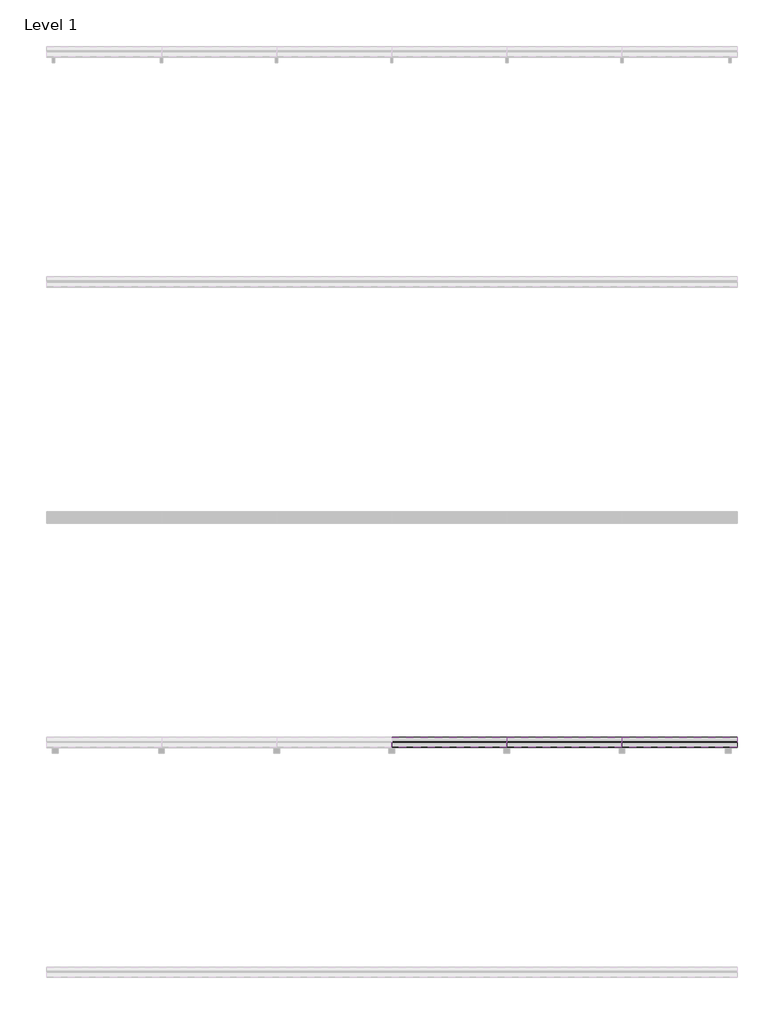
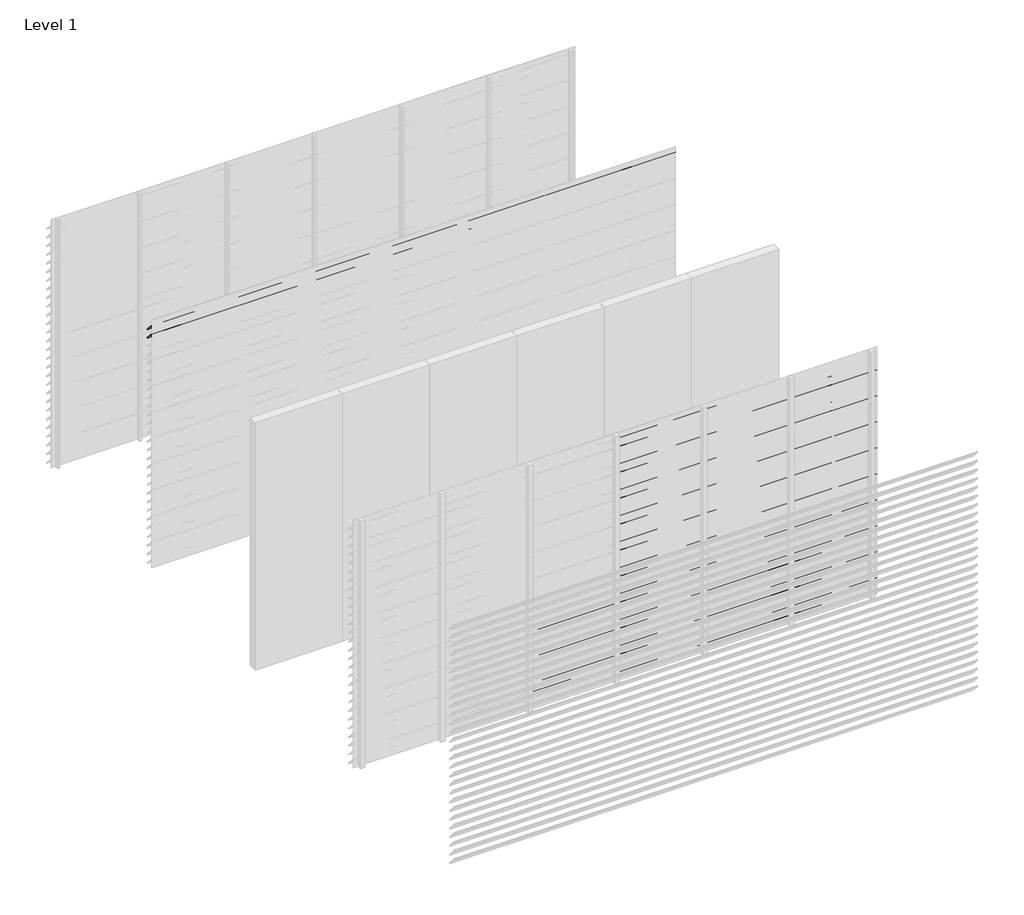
# One storey, part 5 of 9: 95 proxies.
"""IFC4 building model written with IfcOpenShell, lengths in millimetres."""

from ifc_helpers import new_model, si_unit, frame, origin, place, context, project, spatial, polyline, outline, extrude, element, save

model = new_model("IFC4")

# Units and contexts
model_context = context("Model", 3, world=origin())
ifc_project = project(units=[si_unit("LENGTHUNIT", "METRE", prefix="MILLI")], contexts=[model_context])

# Site, building, storey
site = spatial("IfcSite", under=ifc_project)
building = spatial("IfcBuilding", under=site)
storey = spatial("IfcBuildingStorey", under=building, Name="Level 1", Elevation=0.0)

# Proxies
placement = place(None, origin())
element("IfcBuildingElementProxy", 1, Name="Wall Sweeps", at=placement, inside=storey, context=model_context, shape_type="SweptSolid", body=[
    extrude(outline(polyline([(-7995.0, 2940.0), (-7995.0, 2935.6232888), (-7908.0, 2839.0), (-7908.0, 2829.0), (-7997.0, 2927.8445138), (-7997.0, 2940.0), (-7995.0, 2940.0)])), frame((0.0, 0.0, 0.0), z_axis=(1.0, 0.0, 0.0), x_axis=(0.0, 1.0, 0.0)), (0.0, 0.0, 1.0), 6000.0),
])
element("IfcBuildingElementProxy", 2, Name="Wall Sweeps", at=placement, inside=storey, context=model_context, shape_type="SweptSolid", body=[
    extrude(outline(polyline([(-7995.0, 2835.0), (-7995.0, 2830.6232888), (-7908.0, 2734.0), (-7908.0, 2724.0), (-7997.0, 2822.8445138), (-7997.0, 2835.0), (-7995.0, 2835.0)])), frame((0.0, 0.0, 0.0), z_axis=(1.0, 0.0, 0.0), x_axis=(0.0, 1.0, 0.0)), (0.0, 0.0, 1.0), 6000.0),
])
element("IfcBuildingElementProxy", 3, Name="Wall Sweeps", at=placement, inside=storey, context=model_context, shape_type="SweptSolid", body=[
    extrude(outline(polyline([(-11995.0, 945.0), (-11995.0, 940.6232888), (-11908.0, 844.0), (-11908.0, 834.0), (-11997.0, 932.8445138), (-11997.0, 945.0), (-11995.0, 945.0)])), frame((2000.0, 0.0, 0.0), z_axis=(1.0, 0.0, 0.0), x_axis=(0.0, 1.0, 0.0)), (0.0, 0.0, 1.0), 1000.0),
])
element("IfcBuildingElementProxy", 4, Name="Wall Sweeps", at=placement, inside=storey, context=model_context, shape_type="SweptSolid", body=[
    extrude(outline(polyline([(-11995.0, 840.0), (-11995.0, 835.6232888), (-11908.0, 739.0), (-11908.0, 729.0), (-11997.0, 827.8445138), (-11997.0, 840.0), (-11995.0, 840.0)])), frame((2000.0, 0.0, 0.0), z_axis=(1.0, 0.0, 0.0), x_axis=(0.0, 1.0, 0.0)), (0.0, 0.0, 1.0), 1000.0),
])
element("IfcBuildingElementProxy", 5, Name="Wall Sweeps", at=placement, inside=storey, context=model_context, shape_type="SweptSolid", body=[
    extrude(outline(polyline([(-11995.0, 735.0), (-11995.0, 730.6232888), (-11908.0, 634.0), (-11908.0, 624.0), (-11997.0, 722.8445138), (-11997.0, 735.0), (-11995.0, 735.0)])), frame((2000.0, 0.0, 0.0), z_axis=(1.0, 0.0, 0.0), x_axis=(0.0, 1.0, 0.0)), (0.0, 0.0, 1.0), 1000.0),
])
element("IfcBuildingElementProxy", 6, Name="Wall Sweeps", at=placement, inside=storey, context=model_context, shape_type="SweptSolid", body=[
    extrude(outline(polyline([(-11995.0, 630.0), (-11995.0, 625.6232888), (-11908.0, 529.0), (-11908.0, 519.0), (-11997.0, 617.8445138), (-11997.0, 630.0), (-11995.0, 630.0)])), frame((2000.0, 0.0, 0.0), z_axis=(1.0, 0.0, 0.0), x_axis=(0.0, 1.0, 0.0)), (0.0, 0.0, 1.0), 1000.0),
])
element("IfcBuildingElementProxy", 7, Name="Wall Sweeps", at=placement, inside=storey, context=model_context, shape_type="SweptSolid", body=[
    extrude(outline(polyline([(-11995.0, 525.0), (-11995.0, 520.6232888), (-11908.0, 424.0), (-11908.0, 414.0), (-11997.0, 512.8445138), (-11997.0, 525.0), (-11995.0, 525.0)])), frame((2000.0, 0.0, 0.0), z_axis=(1.0, 0.0, 0.0), x_axis=(0.0, 1.0, 0.0)), (0.0, 0.0, 1.0), 1000.0),
])
element("IfcBuildingElementProxy", 8, Name="Wall Sweeps", at=placement, inside=storey, context=model_context, shape_type="SweptSolid", body=[
    extrude(outline(polyline([(-11995.0, 420.0), (-11995.0, 415.6232888), (-11908.0, 319.0), (-11908.0, 309.0), (-11997.0, 407.8445138), (-11997.0, 420.0), (-11995.0, 420.0)])), frame((2000.0, 0.0, 0.0), z_axis=(1.0, 0.0, 0.0), x_axis=(0.0, 1.0, 0.0)), (0.0, 0.0, 1.0), 1000.0),
])
element("IfcBuildingElementProxy", 9, Name="Wall Sweeps", at=placement, inside=storey, context=model_context, shape_type="SweptSolid", body=[
    extrude(outline(polyline([(-11995.0, 315.0), (-11995.0, 310.6232888), (-11908.0, 214.0), (-11908.0, 204.0), (-11997.0, 302.8445138), (-11997.0, 315.0), (-11995.0, 315.0)])), frame((2000.0, 0.0, 0.0), z_axis=(1.0, 0.0, 0.0), x_axis=(0.0, 1.0, 0.0)), (0.0, 0.0, 1.0), 1000.0),
])
element("IfcBuildingElementProxy", 10, Name="Wall Sweeps", at=placement, inside=storey, context=model_context, shape_type="SweptSolid", body=[
    extrude(outline(polyline([(-11995.0, 210.0), (-11995.0, 205.6232888), (-11908.0, 109.0), (-11908.0, 99.0), (-11997.0, 197.8445138), (-11997.0, 210.0), (-11995.0, 210.0)])), frame((2000.0, 0.0, 0.0), z_axis=(1.0, 0.0, 0.0), x_axis=(0.0, 1.0, 0.0)), (0.0, 0.0, 1.0), 1000.0),
])
element("IfcBuildingElementProxy", 11, Name="Wall Sweeps", at=placement, inside=storey, context=model_context, shape_type="SweptSolid", body=[
    extrude(outline(polyline([(-11995.0, 105.0), (-11995.0, 100.6232888), (-11908.0, 4.0), (-11908.0, -6.0), (-11997.0, 92.8445138), (-11997.0, 105.0), (-11995.0, 105.0)])), frame((2000.0, 0.0, 0.0), z_axis=(1.0, 0.0, 0.0), x_axis=(0.0, 1.0, 0.0)), (0.0, 0.0, 1.0), 1000.0),
])
element("IfcBuildingElementProxy", 12, Name="Wall Sweeps", at=placement, inside=storey, context=model_context, shape_type="SweptSolid", body=[
    extrude(outline(polyline([(-11995.0, 2940.0), (-11995.0, 2935.6232888), (-11908.0, 2839.0), (-11908.0, 2829.0), (-11997.0, 2927.8445138), (-11997.0, 2940.0), (-11995.0, 2940.0)])), frame((3000.0, 0.0, 0.0), z_axis=(1.0, 0.0, 0.0), x_axis=(0.0, 1.0, 0.0)), (0.0, 0.0, 1.0), 1000.0),
])
element("IfcBuildingElementProxy", 13, Name="Wall Sweeps", at=placement, inside=storey, context=model_context, shape_type="SweptSolid", body=[
    extrude(outline(polyline([(-11995.0, 2835.0), (-11995.0, 2830.6232888), (-11908.0, 2734.0), (-11908.0, 2724.0), (-11997.0, 2822.8445138), (-11997.0, 2835.0), (-11995.0, 2835.0)])), frame((3000.0, 0.0, 0.0), z_axis=(1.0, 0.0, 0.0), x_axis=(0.0, 1.0, 0.0)), (0.0, 0.0, 1.0), 1000.0),
])
element("IfcBuildingElementProxy", 14, Name="Wall Sweeps", at=placement, inside=storey, context=model_context, shape_type="SweptSolid", body=[
    extrude(outline(polyline([(-11995.0, 2730.0), (-11995.0, 2725.6232888), (-11908.0, 2629.0), (-11908.0, 2619.0), (-11997.0, 2717.8445138), (-11997.0, 2730.0), (-11995.0, 2730.0)])), frame((3000.0, 0.0, 0.0), z_axis=(1.0, 0.0, 0.0), x_axis=(0.0, 1.0, 0.0)), (0.0, 0.0, 1.0), 1000.0),
])
element("IfcBuildingElementProxy", 15, Name="Wall Sweeps", at=placement, inside=storey, context=model_context, shape_type="SweptSolid", body=[
    extrude(outline(polyline([(-11995.0, 2625.0), (-11995.0, 2620.6232888), (-11908.0, 2524.0), (-11908.0, 2514.0), (-11997.0, 2612.8445138), (-11997.0, 2625.0), (-11995.0, 2625.0)])), frame((3000.0, 0.0, 0.0), z_axis=(1.0, 0.0, 0.0), x_axis=(0.0, 1.0, 0.0)), (0.0, 0.0, 1.0), 1000.0),
])
element("IfcBuildingElementProxy", 16, Name="Wall Sweeps", at=placement, inside=storey, context=model_context, shape_type="SweptSolid", body=[
    extrude(outline(polyline([(-11995.0, 2520.0), (-11995.0, 2515.6232888), (-11908.0, 2419.0), (-11908.0, 2409.0), (-11997.0, 2507.8445138), (-11997.0, 2520.0), (-11995.0, 2520.0)])), frame((3000.0, 0.0, 0.0), z_axis=(1.0, 0.0, 0.0), x_axis=(0.0, 1.0, 0.0)), (0.0, 0.0, 1.0), 1000.0),
])
element("IfcBuildingElementProxy", 17, Name="Wall Sweeps", at=placement, inside=storey, context=model_context, shape_type="SweptSolid", body=[
    extrude(outline(polyline([(-11995.0, 2415.0), (-11995.0, 2410.6232888), (-11908.0, 2314.0), (-11908.0, 2304.0), (-11997.0, 2402.8445138), (-11997.0, 2415.0), (-11995.0, 2415.0)])), frame((3000.0, 0.0, 0.0), z_axis=(1.0, 0.0, 0.0), x_axis=(0.0, 1.0, 0.0)), (0.0, 0.0, 1.0), 1000.0),
])
element("IfcBuildingElementProxy", 18, Name="Wall Sweeps", at=placement, inside=storey, context=model_context, shape_type="SweptSolid", body=[
    extrude(outline(polyline([(-11995.0, 2310.0), (-11995.0, 2305.6232888), (-11908.0, 2209.0), (-11908.0, 2199.0), (-11997.0, 2297.8445138), (-11997.0, 2310.0), (-11995.0, 2310.0)])), frame((3000.0, 0.0, 0.0), z_axis=(1.0, 0.0, 0.0), x_axis=(0.0, 1.0, 0.0)), (0.0, 0.0, 1.0), 1000.0),
])
element("IfcBuildingElementProxy", 19, Name="Wall Sweeps", at=placement, inside=storey, context=model_context, shape_type="SweptSolid", body=[
    extrude(outline(polyline([(-11995.0, 2205.0), (-11995.0, 2200.6232888), (-11908.0, 2104.0), (-11908.0, 2094.0), (-11997.0, 2192.8445138), (-11997.0, 2205.0), (-11995.0, 2205.0)])), frame((3000.0, 0.0, 0.0), z_axis=(1.0, 0.0, 0.0), x_axis=(0.0, 1.0, 0.0)), (0.0, 0.0, 1.0), 1000.0),
])
element("IfcBuildingElementProxy", 20, Name="Wall Sweeps", at=placement, inside=storey, context=model_context, shape_type="SweptSolid", body=[
    extrude(outline(polyline([(-11995.0, 2100.0), (-11995.0, 2095.6232888), (-11908.0, 1999.0), (-11908.0, 1989.0), (-11997.0, 2087.8445138), (-11997.0, 2100.0), (-11995.0, 2100.0)])), frame((3000.0, 0.0, 0.0), z_axis=(1.0, 0.0, 0.0), x_axis=(0.0, 1.0, 0.0)), (0.0, 0.0, 1.0), 1000.0),
])
element("IfcBuildingElementProxy", 21, Name="Wall Sweeps", at=placement, inside=storey, context=model_context, shape_type="SweptSolid", body=[
    extrude(outline(polyline([(-11995.0, 1995.0), (-11995.0, 1990.6232888), (-11908.0, 1894.0), (-11908.0, 1884.0), (-11997.0, 1982.8445138), (-11997.0, 1995.0), (-11995.0, 1995.0)])), frame((3000.0, 0.0, 0.0), z_axis=(1.0, 0.0, 0.0), x_axis=(0.0, 1.0, 0.0)), (0.0, 0.0, 1.0), 1000.0),
])
element("IfcBuildingElementProxy", 22, Name="Wall Sweeps", at=placement, inside=storey, context=model_context, shape_type="SweptSolid", body=[
    extrude(outline(polyline([(-11995.0, 1890.0), (-11995.0, 1885.6232888), (-11908.0, 1789.0), (-11908.0, 1779.0), (-11997.0, 1877.8445138), (-11997.0, 1890.0), (-11995.0, 1890.0)])), frame((3000.0, 0.0, 0.0), z_axis=(1.0, 0.0, 0.0), x_axis=(0.0, 1.0, 0.0)), (0.0, 0.0, 1.0), 1000.0),
])
element("IfcBuildingElementProxy", 23, Name="Wall Sweeps", at=placement, inside=storey, context=model_context, shape_type="SweptSolid", body=[
    extrude(outline(polyline([(-11995.0, 1785.0), (-11995.0, 1780.6232888), (-11908.0, 1684.0), (-11908.0, 1674.0), (-11997.0, 1772.8445138), (-11997.0, 1785.0), (-11995.0, 1785.0)])), frame((3000.0, 0.0, 0.0), z_axis=(1.0, 0.0, 0.0), x_axis=(0.0, 1.0, 0.0)), (0.0, 0.0, 1.0), 1000.0),
])
element("IfcBuildingElementProxy", 24, Name="Wall Sweeps", at=placement, inside=storey, context=model_context, shape_type="SweptSolid", body=[
    extrude(outline(polyline([(-11995.0, 1680.0), (-11995.0, 1675.6232888), (-11908.0, 1579.0), (-11908.0, 1569.0), (-11997.0, 1667.8445138), (-11997.0, 1680.0), (-11995.0, 1680.0)])), frame((3000.0, 0.0, 0.0), z_axis=(1.0, 0.0, 0.0), x_axis=(0.0, 1.0, 0.0)), (0.0, 0.0, 1.0), 1000.0),
])
element("IfcBuildingElementProxy", 25, Name="Wall Sweeps", at=placement, inside=storey, context=model_context, shape_type="SweptSolid", body=[
    extrude(outline(polyline([(-11995.0, 1575.0), (-11995.0, 1570.6232888), (-11908.0, 1474.0), (-11908.0, 1464.0), (-11997.0, 1562.8445138), (-11997.0, 1575.0), (-11995.0, 1575.0)])), frame((3000.0, 0.0, 0.0), z_axis=(1.0, 0.0, 0.0), x_axis=(0.0, 1.0, 0.0)), (0.0, 0.0, 1.0), 1000.0),
])
element("IfcBuildingElementProxy", 26, Name="Wall Sweeps", at=placement, inside=storey, context=model_context, shape_type="SweptSolid", body=[
    extrude(outline(polyline([(-11995.0, 1470.0), (-11995.0, 1465.6232888), (-11908.0, 1369.0), (-11908.0, 1359.0), (-11997.0, 1457.8445138), (-11997.0, 1470.0), (-11995.0, 1470.0)])), frame((3000.0, 0.0, 0.0), z_axis=(1.0, 0.0, 0.0), x_axis=(0.0, 1.0, 0.0)), (0.0, 0.0, 1.0), 1000.0),
])
element("IfcBuildingElementProxy", 27, Name="Wall Sweeps", at=placement, inside=storey, context=model_context, shape_type="SweptSolid", body=[
    extrude(outline(polyline([(-11995.0, 1365.0), (-11995.0, 1360.6232888), (-11908.0, 1264.0), (-11908.0, 1254.0), (-11997.0, 1352.8445138), (-11997.0, 1365.0), (-11995.0, 1365.0)])), frame((3000.0, 0.0, 0.0), z_axis=(1.0, 0.0, 0.0), x_axis=(0.0, 1.0, 0.0)), (0.0, 0.0, 1.0), 1000.0),
])
element("IfcBuildingElementProxy", 28, Name="Wall Sweeps", at=placement, inside=storey, context=model_context, shape_type="SweptSolid", body=[
    extrude(outline(polyline([(-11995.0, 1260.0), (-11995.0, 1255.6232888), (-11908.0, 1159.0), (-11908.0, 1149.0), (-11997.0, 1247.8445138), (-11997.0, 1260.0), (-11995.0, 1260.0)])), frame((3000.0, 0.0, 0.0), z_axis=(1.0, 0.0, 0.0), x_axis=(0.0, 1.0, 0.0)), (0.0, 0.0, 1.0), 1000.0),
])
element("IfcBuildingElementProxy", 29, Name="Wall Sweeps", at=placement, inside=storey, context=model_context, shape_type="SweptSolid", body=[
    extrude(outline(polyline([(-11995.0, 1155.0), (-11995.0, 1150.6232888), (-11908.0, 1054.0), (-11908.0, 1044.0), (-11997.0, 1142.8445138), (-11997.0, 1155.0), (-11995.0, 1155.0)])), frame((3000.0, 0.0, 0.0), z_axis=(1.0, 0.0, 0.0), x_axis=(0.0, 1.0, 0.0)), (0.0, 0.0, 1.0), 1000.0),
])
element("IfcBuildingElementProxy", 30, Name="Wall Sweeps", at=placement, inside=storey, context=model_context, shape_type="SweptSolid", body=[
    extrude(outline(polyline([(-11995.0, 1050.0), (-11995.0, 1045.6232888), (-11908.0, 949.0), (-11908.0, 939.0), (-11997.0, 1037.8445138), (-11997.0, 1050.0), (-11995.0, 1050.0)])), frame((3000.0, 0.0, 0.0), z_axis=(1.0, 0.0, 0.0), x_axis=(0.0, 1.0, 0.0)), (0.0, 0.0, 1.0), 1000.0),
])
element("IfcBuildingElementProxy", 31, Name="Wall Sweeps", at=placement, inside=storey, context=model_context, shape_type="SweptSolid", body=[
    extrude(outline(polyline([(-11995.0, 945.0), (-11995.0, 940.6232888), (-11908.0, 844.0), (-11908.0, 834.0), (-11997.0, 932.8445138), (-11997.0, 945.0), (-11995.0, 945.0)])), frame((3000.0, 0.0, 0.0), z_axis=(1.0, 0.0, 0.0), x_axis=(0.0, 1.0, 0.0)), (0.0, 0.0, 1.0), 1000.0),
])
element("IfcBuildingElementProxy", 32, Name="Wall Sweeps", at=placement, inside=storey, context=model_context, shape_type="SweptSolid", body=[
    extrude(outline(polyline([(-11995.0, 840.0), (-11995.0, 835.6232888), (-11908.0, 739.0), (-11908.0, 729.0), (-11997.0, 827.8445138), (-11997.0, 840.0), (-11995.0, 840.0)])), frame((3000.0, 0.0, 0.0), z_axis=(1.0, 0.0, 0.0), x_axis=(0.0, 1.0, 0.0)), (0.0, 0.0, 1.0), 1000.0),
])
element("IfcBuildingElementProxy", 33, Name="Wall Sweeps", at=placement, inside=storey, context=model_context, shape_type="SweptSolid", body=[
    extrude(outline(polyline([(-11995.0, 735.0), (-11995.0, 730.6232888), (-11908.0, 634.0), (-11908.0, 624.0), (-11997.0, 722.8445138), (-11997.0, 735.0), (-11995.0, 735.0)])), frame((3000.0, 0.0, 0.0), z_axis=(1.0, 0.0, 0.0), x_axis=(0.0, 1.0, 0.0)), (0.0, 0.0, 1.0), 1000.0),
])
element("IfcBuildingElementProxy", 34, Name="Wall Sweeps", at=placement, inside=storey, context=model_context, shape_type="SweptSolid", body=[
    extrude(outline(polyline([(-11995.0, 630.0), (-11995.0, 625.6232888), (-11908.0, 529.0), (-11908.0, 519.0), (-11997.0, 617.8445138), (-11997.0, 630.0), (-11995.0, 630.0)])), frame((3000.0, 0.0, 0.0), z_axis=(1.0, 0.0, 0.0), x_axis=(0.0, 1.0, 0.0)), (0.0, 0.0, 1.0), 1000.0),
])
element("IfcBuildingElementProxy", 35, Name="Wall Sweeps", at=placement, inside=storey, context=model_context, shape_type="SweptSolid", body=[
    extrude(outline(polyline([(-11995.0, 525.0), (-11995.0, 520.6232888), (-11908.0, 424.0), (-11908.0, 414.0), (-11997.0, 512.8445138), (-11997.0, 525.0), (-11995.0, 525.0)])), frame((3000.0, 0.0, 0.0), z_axis=(1.0, 0.0, 0.0), x_axis=(0.0, 1.0, 0.0)), (0.0, 0.0, 1.0), 1000.0),
])
element("IfcBuildingElementProxy", 36, Name="Wall Sweeps", at=placement, inside=storey, context=model_context, shape_type="SweptSolid", body=[
    extrude(outline(polyline([(-11995.0, 420.0), (-11995.0, 415.6232888), (-11908.0, 319.0), (-11908.0, 309.0), (-11997.0, 407.8445138), (-11997.0, 420.0), (-11995.0, 420.0)])), frame((3000.0, 0.0, 0.0), z_axis=(1.0, 0.0, 0.0), x_axis=(0.0, 1.0, 0.0)), (0.0, 0.0, 1.0), 1000.0),
])
element("IfcBuildingElementProxy", 37, Name="Wall Sweeps", at=placement, inside=storey, context=model_context, shape_type="SweptSolid", body=[
    extrude(outline(polyline([(-11995.0, 315.0), (-11995.0, 310.6232888), (-11908.0, 214.0), (-11908.0, 204.0), (-11997.0, 302.8445138), (-11997.0, 315.0), (-11995.0, 315.0)])), frame((3000.0, 0.0, 0.0), z_axis=(1.0, 0.0, 0.0), x_axis=(0.0, 1.0, 0.0)), (0.0, 0.0, 1.0), 1000.0),
])
element("IfcBuildingElementProxy", 38, Name="Wall Sweeps", at=placement, inside=storey, context=model_context, shape_type="SweptSolid", body=[
    extrude(outline(polyline([(-11995.0, 210.0), (-11995.0, 205.6232888), (-11908.0, 109.0), (-11908.0, 99.0), (-11997.0, 197.8445138), (-11997.0, 210.0), (-11995.0, 210.0)])), frame((3000.0, 0.0, 0.0), z_axis=(1.0, 0.0, 0.0), x_axis=(0.0, 1.0, 0.0)), (0.0, 0.0, 1.0), 1000.0),
])
element("IfcBuildingElementProxy", 39, Name="Wall Sweeps", at=placement, inside=storey, context=model_context, shape_type="SweptSolid", body=[
    extrude(outline(polyline([(-11995.0, 105.0), (-11995.0, 100.6232888), (-11908.0, 4.0), (-11908.0, -6.0), (-11997.0, 92.8445138), (-11997.0, 105.0), (-11995.0, 105.0)])), frame((3000.0, 0.0, 0.0), z_axis=(1.0, 0.0, 0.0), x_axis=(0.0, 1.0, 0.0)), (0.0, 0.0, 1.0), 1000.0),
])
element("IfcBuildingElementProxy", 40, Name="Wall Sweeps", at=placement, inside=storey, context=model_context, shape_type="SweptSolid", body=[
    extrude(outline(polyline([(-11995.0, 2940.0), (-11995.0, 2935.6232888), (-11908.0, 2839.0), (-11908.0, 2829.0), (-11997.0, 2927.8445138), (-11997.0, 2940.0), (-11995.0, 2940.0)])), frame((4000.0, 0.0, 0.0), z_axis=(1.0, 0.0, 0.0), x_axis=(0.0, 1.0, 0.0)), (0.0, 0.0, 1.0), 1000.0),
])
element("IfcBuildingElementProxy", 41, Name="Wall Sweeps", at=placement, inside=storey, context=model_context, shape_type="SweptSolid", body=[
    extrude(outline(polyline([(-11995.0, 2835.0), (-11995.0, 2830.6232888), (-11908.0, 2734.0), (-11908.0, 2724.0), (-11997.0, 2822.8445138), (-11997.0, 2835.0), (-11995.0, 2835.0)])), frame((4000.0, 0.0, 0.0), z_axis=(1.0, 0.0, 0.0), x_axis=(0.0, 1.0, 0.0)), (0.0, 0.0, 1.0), 1000.0),
])
element("IfcBuildingElementProxy", 42, Name="Wall Sweeps", at=placement, inside=storey, context=model_context, shape_type="SweptSolid", body=[
    extrude(outline(polyline([(-11995.0, 2730.0), (-11995.0, 2725.6232888), (-11908.0, 2629.0), (-11908.0, 2619.0), (-11997.0, 2717.8445138), (-11997.0, 2730.0), (-11995.0, 2730.0)])), frame((4000.0, 0.0, 0.0), z_axis=(1.0, 0.0, 0.0), x_axis=(0.0, 1.0, 0.0)), (0.0, 0.0, 1.0), 1000.0),
])
element("IfcBuildingElementProxy", 43, Name="Wall Sweeps", at=placement, inside=storey, context=model_context, shape_type="SweptSolid", body=[
    extrude(outline(polyline([(-11995.0, 2625.0), (-11995.0, 2620.6232888), (-11908.0, 2524.0), (-11908.0, 2514.0), (-11997.0, 2612.8445138), (-11997.0, 2625.0), (-11995.0, 2625.0)])), frame((4000.0, 0.0, 0.0), z_axis=(1.0, 0.0, 0.0), x_axis=(0.0, 1.0, 0.0)), (0.0, 0.0, 1.0), 1000.0),
])
element("IfcBuildingElementProxy", 44, Name="Wall Sweeps", at=placement, inside=storey, context=model_context, shape_type="SweptSolid", body=[
    extrude(outline(polyline([(-11995.0, 2520.0), (-11995.0, 2515.6232888), (-11908.0, 2419.0), (-11908.0, 2409.0), (-11997.0, 2507.8445138), (-11997.0, 2520.0), (-11995.0, 2520.0)])), frame((4000.0, 0.0, 0.0), z_axis=(1.0, 0.0, 0.0), x_axis=(0.0, 1.0, 0.0)), (0.0, 0.0, 1.0), 1000.0),
])
element("IfcBuildingElementProxy", 45, Name="Wall Sweeps", at=placement, inside=storey, context=model_context, shape_type="SweptSolid", body=[
    extrude(outline(polyline([(-11995.0, 2415.0), (-11995.0, 2410.6232888), (-11908.0, 2314.0), (-11908.0, 2304.0), (-11997.0, 2402.8445138), (-11997.0, 2415.0), (-11995.0, 2415.0)])), frame((4000.0, 0.0, 0.0), z_axis=(1.0, 0.0, 0.0), x_axis=(0.0, 1.0, 0.0)), (0.0, 0.0, 1.0), 1000.0),
])
element("IfcBuildingElementProxy", 46, Name="Wall Sweeps", at=placement, inside=storey, context=model_context, shape_type="SweptSolid", body=[
    extrude(outline(polyline([(-11995.0, 2310.0), (-11995.0, 2305.6232888), (-11908.0, 2209.0), (-11908.0, 2199.0), (-11997.0, 2297.8445138), (-11997.0, 2310.0), (-11995.0, 2310.0)])), frame((4000.0, 0.0, 0.0), z_axis=(1.0, 0.0, 0.0), x_axis=(0.0, 1.0, 0.0)), (0.0, 0.0, 1.0), 1000.0),
])
element("IfcBuildingElementProxy", 47, Name="Wall Sweeps", at=placement, inside=storey, context=model_context, shape_type="SweptSolid", body=[
    extrude(outline(polyline([(-11995.0, 2205.0), (-11995.0, 2200.6232888), (-11908.0, 2104.0), (-11908.0, 2094.0), (-11997.0, 2192.8445138), (-11997.0, 2205.0), (-11995.0, 2205.0)])), frame((4000.0, 0.0, 0.0), z_axis=(1.0, 0.0, 0.0), x_axis=(0.0, 1.0, 0.0)), (0.0, 0.0, 1.0), 1000.0),
])
element("IfcBuildingElementProxy", 48, Name="Wall Sweeps", at=placement, inside=storey, context=model_context, shape_type="SweptSolid", body=[
    extrude(outline(polyline([(-11995.0, 2100.0), (-11995.0, 2095.6232888), (-11908.0, 1999.0), (-11908.0, 1989.0), (-11997.0, 2087.8445138), (-11997.0, 2100.0), (-11995.0, 2100.0)])), frame((4000.0, 0.0, 0.0), z_axis=(1.0, 0.0, 0.0), x_axis=(0.0, 1.0, 0.0)), (0.0, 0.0, 1.0), 1000.0),
])
element("IfcBuildingElementProxy", 49, Name="Wall Sweeps", at=placement, inside=storey, context=model_context, shape_type="SweptSolid", body=[
    extrude(outline(polyline([(-11995.0, 1995.0), (-11995.0, 1990.6232888), (-11908.0, 1894.0), (-11908.0, 1884.0), (-11997.0, 1982.8445138), (-11997.0, 1995.0), (-11995.0, 1995.0)])), frame((4000.0, 0.0, 0.0), z_axis=(1.0, 0.0, 0.0), x_axis=(0.0, 1.0, 0.0)), (0.0, 0.0, 1.0), 1000.0),
])
element("IfcBuildingElementProxy", 50, Name="Wall Sweeps", at=placement, inside=storey, context=model_context, shape_type="SweptSolid", body=[
    extrude(outline(polyline([(-11995.0, 1890.0), (-11995.0, 1885.6232888), (-11908.0, 1789.0), (-11908.0, 1779.0), (-11997.0, 1877.8445138), (-11997.0, 1890.0), (-11995.0, 1890.0)])), frame((4000.0, 0.0, 0.0), z_axis=(1.0, 0.0, 0.0), x_axis=(0.0, 1.0, 0.0)), (0.0, 0.0, 1.0), 1000.0),
])
element("IfcBuildingElementProxy", 51, Name="Wall Sweeps", at=placement, inside=storey, context=model_context, shape_type="SweptSolid", body=[
    extrude(outline(polyline([(-11995.0, 1785.0), (-11995.0, 1780.6232888), (-11908.0, 1684.0), (-11908.0, 1674.0), (-11997.0, 1772.8445138), (-11997.0, 1785.0), (-11995.0, 1785.0)])), frame((4000.0, 0.0, 0.0), z_axis=(1.0, 0.0, 0.0), x_axis=(0.0, 1.0, 0.0)), (0.0, 0.0, 1.0), 1000.0),
])
element("IfcBuildingElementProxy", 52, Name="Wall Sweeps", at=placement, inside=storey, context=model_context, shape_type="SweptSolid", body=[
    extrude(outline(polyline([(-11995.0, 1680.0), (-11995.0, 1675.6232888), (-11908.0, 1579.0), (-11908.0, 1569.0), (-11997.0, 1667.8445138), (-11997.0, 1680.0), (-11995.0, 1680.0)])), frame((4000.0, 0.0, 0.0), z_axis=(1.0, 0.0, 0.0), x_axis=(0.0, 1.0, 0.0)), (0.0, 0.0, 1.0), 1000.0),
])
element("IfcBuildingElementProxy", 53, Name="Wall Sweeps", at=placement, inside=storey, context=model_context, shape_type="SweptSolid", body=[
    extrude(outline(polyline([(-11995.0, 1575.0), (-11995.0, 1570.6232888), (-11908.0, 1474.0), (-11908.0, 1464.0), (-11997.0, 1562.8445138), (-11997.0, 1575.0), (-11995.0, 1575.0)])), frame((4000.0, 0.0, 0.0), z_axis=(1.0, 0.0, 0.0), x_axis=(0.0, 1.0, 0.0)), (0.0, 0.0, 1.0), 1000.0),
])
element("IfcBuildingElementProxy", 54, Name="Wall Sweeps", at=placement, inside=storey, context=model_context, shape_type="SweptSolid", body=[
    extrude(outline(polyline([(-11995.0, 1470.0), (-11995.0, 1465.6232888), (-11908.0, 1369.0), (-11908.0, 1359.0), (-11997.0, 1457.8445138), (-11997.0, 1470.0), (-11995.0, 1470.0)])), frame((4000.0, 0.0, 0.0), z_axis=(1.0, 0.0, 0.0), x_axis=(0.0, 1.0, 0.0)), (0.0, 0.0, 1.0), 1000.0),
])
element("IfcBuildingElementProxy", 55, Name="Wall Sweeps", at=placement, inside=storey, context=model_context, shape_type="SweptSolid", body=[
    extrude(outline(polyline([(-11995.0, 1365.0), (-11995.0, 1360.6232888), (-11908.0, 1264.0), (-11908.0, 1254.0), (-11997.0, 1352.8445138), (-11997.0, 1365.0), (-11995.0, 1365.0)])), frame((4000.0, 0.0, 0.0), z_axis=(1.0, 0.0, 0.0), x_axis=(0.0, 1.0, 0.0)), (0.0, 0.0, 1.0), 1000.0),
])
element("IfcBuildingElementProxy", 56, Name="Wall Sweeps", at=placement, inside=storey, context=model_context, shape_type="SweptSolid", body=[
    extrude(outline(polyline([(-11995.0, 1260.0), (-11995.0, 1255.6232888), (-11908.0, 1159.0), (-11908.0, 1149.0), (-11997.0, 1247.8445138), (-11997.0, 1260.0), (-11995.0, 1260.0)])), frame((4000.0, 0.0, 0.0), z_axis=(1.0, 0.0, 0.0), x_axis=(0.0, 1.0, 0.0)), (0.0, 0.0, 1.0), 1000.0),
])
element("IfcBuildingElementProxy", 57, Name="Wall Sweeps", at=placement, inside=storey, context=model_context, shape_type="SweptSolid", body=[
    extrude(outline(polyline([(-11995.0, 1155.0), (-11995.0, 1150.6232888), (-11908.0, 1054.0), (-11908.0, 1044.0), (-11997.0, 1142.8445138), (-11997.0, 1155.0), (-11995.0, 1155.0)])), frame((4000.0, 0.0, 0.0), z_axis=(1.0, 0.0, 0.0), x_axis=(0.0, 1.0, 0.0)), (0.0, 0.0, 1.0), 1000.0),
])
element("IfcBuildingElementProxy", 58, Name="Wall Sweeps", at=placement, inside=storey, context=model_context, shape_type="SweptSolid", body=[
    extrude(outline(polyline([(-11995.0, 1050.0), (-11995.0, 1045.6232888), (-11908.0, 949.0), (-11908.0, 939.0), (-11997.0, 1037.8445138), (-11997.0, 1050.0), (-11995.0, 1050.0)])), frame((4000.0, 0.0, 0.0), z_axis=(1.0, 0.0, 0.0), x_axis=(0.0, 1.0, 0.0)), (0.0, 0.0, 1.0), 1000.0),
])
element("IfcBuildingElementProxy", 59, Name="Wall Sweeps", at=placement, inside=storey, context=model_context, shape_type="SweptSolid", body=[
    extrude(outline(polyline([(-11995.0, 945.0), (-11995.0, 940.6232888), (-11908.0, 844.0), (-11908.0, 834.0), (-11997.0, 932.8445138), (-11997.0, 945.0), (-11995.0, 945.0)])), frame((4000.0, 0.0, 0.0), z_axis=(1.0, 0.0, 0.0), x_axis=(0.0, 1.0, 0.0)), (0.0, 0.0, 1.0), 1000.0),
])
element("IfcBuildingElementProxy", 60, Name="Wall Sweeps", at=placement, inside=storey, context=model_context, shape_type="SweptSolid", body=[
    extrude(outline(polyline([(-11995.0, 840.0), (-11995.0, 835.6232888), (-11908.0, 739.0), (-11908.0, 729.0), (-11997.0, 827.8445138), (-11997.0, 840.0), (-11995.0, 840.0)])), frame((4000.0, 0.0, 0.0), z_axis=(1.0, 0.0, 0.0), x_axis=(0.0, 1.0, 0.0)), (0.0, 0.0, 1.0), 1000.0),
])
element("IfcBuildingElementProxy", 61, Name="Wall Sweeps", at=placement, inside=storey, context=model_context, shape_type="SweptSolid", body=[
    extrude(outline(polyline([(-11995.0, 735.0), (-11995.0, 730.6232888), (-11908.0, 634.0), (-11908.0, 624.0), (-11997.0, 722.8445138), (-11997.0, 735.0), (-11995.0, 735.0)])), frame((4000.0, 0.0, 0.0), z_axis=(1.0, 0.0, 0.0), x_axis=(0.0, 1.0, 0.0)), (0.0, 0.0, 1.0), 1000.0),
])
element("IfcBuildingElementProxy", 62, Name="Wall Sweeps", at=placement, inside=storey, context=model_context, shape_type="SweptSolid", body=[
    extrude(outline(polyline([(-11995.0, 630.0), (-11995.0, 625.6232888), (-11908.0, 529.0), (-11908.0, 519.0), (-11997.0, 617.8445138), (-11997.0, 630.0), (-11995.0, 630.0)])), frame((4000.0, 0.0, 0.0), z_axis=(1.0, 0.0, 0.0), x_axis=(0.0, 1.0, 0.0)), (0.0, 0.0, 1.0), 1000.0),
])
element("IfcBuildingElementProxy", 63, Name="Wall Sweeps", at=placement, inside=storey, context=model_context, shape_type="SweptSolid", body=[
    extrude(outline(polyline([(-11995.0, 525.0), (-11995.0, 520.6232888), (-11908.0, 424.0), (-11908.0, 414.0), (-11997.0, 512.8445138), (-11997.0, 525.0), (-11995.0, 525.0)])), frame((4000.0, 0.0, 0.0), z_axis=(1.0, 0.0, 0.0), x_axis=(0.0, 1.0, 0.0)), (0.0, 0.0, 1.0), 1000.0),
])
element("IfcBuildingElementProxy", 64, Name="Wall Sweeps", at=placement, inside=storey, context=model_context, shape_type="SweptSolid", body=[
    extrude(outline(polyline([(-11995.0, 420.0), (-11995.0, 415.6232888), (-11908.0, 319.0), (-11908.0, 309.0), (-11997.0, 407.8445138), (-11997.0, 420.0), (-11995.0, 420.0)])), frame((4000.0, 0.0, 0.0), z_axis=(1.0, 0.0, 0.0), x_axis=(0.0, 1.0, 0.0)), (0.0, 0.0, 1.0), 1000.0),
])
element("IfcBuildingElementProxy", 65, Name="Wall Sweeps", at=placement, inside=storey, context=model_context, shape_type="SweptSolid", body=[
    extrude(outline(polyline([(-11995.0, 315.0), (-11995.0, 310.6232888), (-11908.0, 214.0), (-11908.0, 204.0), (-11997.0, 302.8445138), (-11997.0, 315.0), (-11995.0, 315.0)])), frame((4000.0, 0.0, 0.0), z_axis=(1.0, 0.0, 0.0), x_axis=(0.0, 1.0, 0.0)), (0.0, 0.0, 1.0), 1000.0),
])
element("IfcBuildingElementProxy", 66, Name="Wall Sweeps", at=placement, inside=storey, context=model_context, shape_type="SweptSolid", body=[
    extrude(outline(polyline([(-11995.0, 210.0), (-11995.0, 205.6232888), (-11908.0, 109.0), (-11908.0, 99.0), (-11997.0, 197.8445138), (-11997.0, 210.0), (-11995.0, 210.0)])), frame((4000.0, 0.0, 0.0), z_axis=(1.0, 0.0, 0.0), x_axis=(0.0, 1.0, 0.0)), (0.0, 0.0, 1.0), 1000.0),
])
element("IfcBuildingElementProxy", 67, Name="Wall Sweeps", at=placement, inside=storey, context=model_context, shape_type="SweptSolid", body=[
    extrude(outline(polyline([(-11995.0, 105.0), (-11995.0, 100.6232888), (-11908.0, 4.0), (-11908.0, -6.0), (-11997.0, 92.8445138), (-11997.0, 105.0), (-11995.0, 105.0)])), frame((4000.0, 0.0, 0.0), z_axis=(1.0, 0.0, 0.0), x_axis=(0.0, 1.0, 0.0)), (0.0, 0.0, 1.0), 1000.0),
])
element("IfcBuildingElementProxy", 68, Name="Wall Sweeps", at=placement, inside=storey, context=model_context, shape_type="SweptSolid", body=[
    extrude(outline(polyline([(-11995.0, 2940.0), (-11995.0, 2935.6232888), (-11908.0, 2839.0), (-11908.0, 2829.0), (-11997.0, 2927.8445138), (-11997.0, 2940.0), (-11995.0, 2940.0)])), frame((5000.0, 0.0, 0.0), z_axis=(1.0, 0.0, 0.0), x_axis=(0.0, 1.0, 0.0)), (0.0, 0.0, 1.0), 1000.0),
])
element("IfcBuildingElementProxy", 69, Name="Wall Sweeps", at=placement, inside=storey, context=model_context, shape_type="SweptSolid", body=[
    extrude(outline(polyline([(-11995.0, 2835.0), (-11995.0, 2830.6232888), (-11908.0, 2734.0), (-11908.0, 2724.0), (-11997.0, 2822.8445138), (-11997.0, 2835.0), (-11995.0, 2835.0)])), frame((5000.0, 0.0, 0.0), z_axis=(1.0, 0.0, 0.0), x_axis=(0.0, 1.0, 0.0)), (0.0, 0.0, 1.0), 1000.0),
])
element("IfcBuildingElementProxy", 70, Name="Wall Sweeps", at=placement, inside=storey, context=model_context, shape_type="SweptSolid", body=[
    extrude(outline(polyline([(-11995.0, 2730.0), (-11995.0, 2725.6232888), (-11908.0, 2629.0), (-11908.0, 2619.0), (-11997.0, 2717.8445138), (-11997.0, 2730.0), (-11995.0, 2730.0)])), frame((5000.0, 0.0, 0.0), z_axis=(1.0, 0.0, 0.0), x_axis=(0.0, 1.0, 0.0)), (0.0, 0.0, 1.0), 1000.0),
])
element("IfcBuildingElementProxy", 71, Name="Wall Sweeps", at=placement, inside=storey, context=model_context, shape_type="SweptSolid", body=[
    extrude(outline(polyline([(-11995.0, 2625.0), (-11995.0, 2620.6232888), (-11908.0, 2524.0), (-11908.0, 2514.0), (-11997.0, 2612.8445138), (-11997.0, 2625.0), (-11995.0, 2625.0)])), frame((5000.0, 0.0, 0.0), z_axis=(1.0, 0.0, 0.0), x_axis=(0.0, 1.0, 0.0)), (0.0, 0.0, 1.0), 1000.0),
])
element("IfcBuildingElementProxy", 72, Name="Wall Sweeps", at=placement, inside=storey, context=model_context, shape_type="SweptSolid", body=[
    extrude(outline(polyline([(-11995.0, 2520.0), (-11995.0, 2515.6232888), (-11908.0, 2419.0), (-11908.0, 2409.0), (-11997.0, 2507.8445138), (-11997.0, 2520.0), (-11995.0, 2520.0)])), frame((5000.0, 0.0, 0.0), z_axis=(1.0, 0.0, 0.0), x_axis=(0.0, 1.0, 0.0)), (0.0, 0.0, 1.0), 1000.0),
])
element("IfcBuildingElementProxy", 73, Name="Wall Sweeps", at=placement, inside=storey, context=model_context, shape_type="SweptSolid", body=[
    extrude(outline(polyline([(-11995.0, 2415.0), (-11995.0, 2410.6232888), (-11908.0, 2314.0), (-11908.0, 2304.0), (-11997.0, 2402.8445138), (-11997.0, 2415.0), (-11995.0, 2415.0)])), frame((5000.0, 0.0, 0.0), z_axis=(1.0, 0.0, 0.0), x_axis=(0.0, 1.0, 0.0)), (0.0, 0.0, 1.0), 1000.0),
])
element("IfcBuildingElementProxy", 74, Name="Wall Sweeps", at=placement, inside=storey, context=model_context, shape_type="SweptSolid", body=[
    extrude(outline(polyline([(-11995.0, 2310.0), (-11995.0, 2305.6232888), (-11908.0, 2209.0), (-11908.0, 2199.0), (-11997.0, 2297.8445138), (-11997.0, 2310.0), (-11995.0, 2310.0)])), frame((5000.0, 0.0, 0.0), z_axis=(1.0, 0.0, 0.0), x_axis=(0.0, 1.0, 0.0)), (0.0, 0.0, 1.0), 1000.0),
])
element("IfcBuildingElementProxy", 75, Name="Wall Sweeps", at=placement, inside=storey, context=model_context, shape_type="SweptSolid", body=[
    extrude(outline(polyline([(-11995.0, 2205.0), (-11995.0, 2200.6232888), (-11908.0, 2104.0), (-11908.0, 2094.0), (-11997.0, 2192.8445138), (-11997.0, 2205.0), (-11995.0, 2205.0)])), frame((5000.0, 0.0, 0.0), z_axis=(1.0, 0.0, 0.0), x_axis=(0.0, 1.0, 0.0)), (0.0, 0.0, 1.0), 1000.0),
])
element("IfcBuildingElementProxy", 76, Name="Wall Sweeps", at=placement, inside=storey, context=model_context, shape_type="SweptSolid", body=[
    extrude(outline(polyline([(-11995.0, 2100.0), (-11995.0, 2095.6232888), (-11908.0, 1999.0), (-11908.0, 1989.0), (-11997.0, 2087.8445138), (-11997.0, 2100.0), (-11995.0, 2100.0)])), frame((5000.0, 0.0, 0.0), z_axis=(1.0, 0.0, 0.0), x_axis=(0.0, 1.0, 0.0)), (0.0, 0.0, 1.0), 1000.0),
])
element("IfcBuildingElementProxy", 77, Name="Wall Sweeps", at=placement, inside=storey, context=model_context, shape_type="SweptSolid", body=[
    extrude(outline(polyline([(-11995.0, 1995.0), (-11995.0, 1990.6232888), (-11908.0, 1894.0), (-11908.0, 1884.0), (-11997.0, 1982.8445138), (-11997.0, 1995.0), (-11995.0, 1995.0)])), frame((5000.0, 0.0, 0.0), z_axis=(1.0, 0.0, 0.0), x_axis=(0.0, 1.0, 0.0)), (0.0, 0.0, 1.0), 1000.0),
])
element("IfcBuildingElementProxy", 78, Name="Wall Sweeps", at=placement, inside=storey, context=model_context, shape_type="SweptSolid", body=[
    extrude(outline(polyline([(-11995.0, 1890.0), (-11995.0, 1885.6232888), (-11908.0, 1789.0), (-11908.0, 1779.0), (-11997.0, 1877.8445138), (-11997.0, 1890.0), (-11995.0, 1890.0)])), frame((5000.0, 0.0, 0.0), z_axis=(1.0, 0.0, 0.0), x_axis=(0.0, 1.0, 0.0)), (0.0, 0.0, 1.0), 1000.0),
])
element("IfcBuildingElementProxy", 79, Name="Wall Sweeps", at=placement, inside=storey, context=model_context, shape_type="SweptSolid", body=[
    extrude(outline(polyline([(-11995.0, 1785.0), (-11995.0, 1780.6232888), (-11908.0, 1684.0), (-11908.0, 1674.0), (-11997.0, 1772.8445138), (-11997.0, 1785.0), (-11995.0, 1785.0)])), frame((5000.0, 0.0, 0.0), z_axis=(1.0, 0.0, 0.0), x_axis=(0.0, 1.0, 0.0)), (0.0, 0.0, 1.0), 1000.0),
])
element("IfcBuildingElementProxy", 80, Name="Wall Sweeps", at=placement, inside=storey, context=model_context, shape_type="SweptSolid", body=[
    extrude(outline(polyline([(-11995.0, 1680.0), (-11995.0, 1675.6232888), (-11908.0, 1579.0), (-11908.0, 1569.0), (-11997.0, 1667.8445138), (-11997.0, 1680.0), (-11995.0, 1680.0)])), frame((5000.0, 0.0, 0.0), z_axis=(1.0, 0.0, 0.0), x_axis=(0.0, 1.0, 0.0)), (0.0, 0.0, 1.0), 1000.0),
])
element("IfcBuildingElementProxy", 81, Name="Wall Sweeps", at=placement, inside=storey, context=model_context, shape_type="SweptSolid", body=[
    extrude(outline(polyline([(-11995.0, 1575.0), (-11995.0, 1570.6232888), (-11908.0, 1474.0), (-11908.0, 1464.0), (-11997.0, 1562.8445138), (-11997.0, 1575.0), (-11995.0, 1575.0)])), frame((5000.0, 0.0, 0.0), z_axis=(1.0, 0.0, 0.0), x_axis=(0.0, 1.0, 0.0)), (0.0, 0.0, 1.0), 1000.0),
])
element("IfcBuildingElementProxy", 82, Name="Wall Sweeps", at=placement, inside=storey, context=model_context, shape_type="SweptSolid", body=[
    extrude(outline(polyline([(-11995.0, 1470.0), (-11995.0, 1465.6232888), (-11908.0, 1369.0), (-11908.0, 1359.0), (-11997.0, 1457.8445138), (-11997.0, 1470.0), (-11995.0, 1470.0)])), frame((5000.0, 0.0, 0.0), z_axis=(1.0, 0.0, 0.0), x_axis=(0.0, 1.0, 0.0)), (0.0, 0.0, 1.0), 1000.0),
])
element("IfcBuildingElementProxy", 83, Name="Wall Sweeps", at=placement, inside=storey, context=model_context, shape_type="SweptSolid", body=[
    extrude(outline(polyline([(-11995.0, 1365.0), (-11995.0, 1360.6232888), (-11908.0, 1264.0), (-11908.0, 1254.0), (-11997.0, 1352.8445138), (-11997.0, 1365.0), (-11995.0, 1365.0)])), frame((5000.0, 0.0, 0.0), z_axis=(1.0, 0.0, 0.0), x_axis=(0.0, 1.0, 0.0)), (0.0, 0.0, 1.0), 1000.0),
])
element("IfcBuildingElementProxy", 84, Name="Wall Sweeps", at=placement, inside=storey, context=model_context, shape_type="SweptSolid", body=[
    extrude(outline(polyline([(-11995.0, 1260.0), (-11995.0, 1255.6232888), (-11908.0, 1159.0), (-11908.0, 1149.0), (-11997.0, 1247.8445138), (-11997.0, 1260.0), (-11995.0, 1260.0)])), frame((5000.0, 0.0, 0.0), z_axis=(1.0, 0.0, 0.0), x_axis=(0.0, 1.0, 0.0)), (0.0, 0.0, 1.0), 1000.0),
])
element("IfcBuildingElementProxy", 85, Name="Wall Sweeps", at=placement, inside=storey, context=model_context, shape_type="SweptSolid", body=[
    extrude(outline(polyline([(-11995.0, 1155.0), (-11995.0, 1150.6232888), (-11908.0, 1054.0), (-11908.0, 1044.0), (-11997.0, 1142.8445138), (-11997.0, 1155.0), (-11995.0, 1155.0)])), frame((5000.0, 0.0, 0.0), z_axis=(1.0, 0.0, 0.0), x_axis=(0.0, 1.0, 0.0)), (0.0, 0.0, 1.0), 1000.0),
])
element("IfcBuildingElementProxy", 86, Name="Wall Sweeps", at=placement, inside=storey, context=model_context, shape_type="SweptSolid", body=[
    extrude(outline(polyline([(-11995.0, 1050.0), (-11995.0, 1045.6232888), (-11908.0, 949.0), (-11908.0, 939.0), (-11997.0, 1037.8445138), (-11997.0, 1050.0), (-11995.0, 1050.0)])), frame((5000.0, 0.0, 0.0), z_axis=(1.0, 0.0, 0.0), x_axis=(0.0, 1.0, 0.0)), (0.0, 0.0, 1.0), 1000.0),
])
element("IfcBuildingElementProxy", 87, Name="Wall Sweeps", at=placement, inside=storey, context=model_context, shape_type="SweptSolid", body=[
    extrude(outline(polyline([(-11995.0, 945.0), (-11995.0, 940.6232888), (-11908.0, 844.0), (-11908.0, 834.0), (-11997.0, 932.8445138), (-11997.0, 945.0), (-11995.0, 945.0)])), frame((5000.0, 0.0, 0.0), z_axis=(1.0, 0.0, 0.0), x_axis=(0.0, 1.0, 0.0)), (0.0, 0.0, 1.0), 1000.0),
])
element("IfcBuildingElementProxy", 88, Name="Wall Sweeps", at=placement, inside=storey, context=model_context, shape_type="SweptSolid", body=[
    extrude(outline(polyline([(-11995.0, 840.0), (-11995.0, 835.6232888), (-11908.0, 739.0), (-11908.0, 729.0), (-11997.0, 827.8445138), (-11997.0, 840.0), (-11995.0, 840.0)])), frame((5000.0, 0.0, 0.0), z_axis=(1.0, 0.0, 0.0), x_axis=(0.0, 1.0, 0.0)), (0.0, 0.0, 1.0), 1000.0),
])
element("IfcBuildingElementProxy", 89, Name="Wall Sweeps", at=placement, inside=storey, context=model_context, shape_type="SweptSolid", body=[
    extrude(outline(polyline([(-11995.0, 735.0), (-11995.0, 730.6232888), (-11908.0, 634.0), (-11908.0, 624.0), (-11997.0, 722.8445138), (-11997.0, 735.0), (-11995.0, 735.0)])), frame((5000.0, 0.0, 0.0), z_axis=(1.0, 0.0, 0.0), x_axis=(0.0, 1.0, 0.0)), (0.0, 0.0, 1.0), 1000.0),
])
element("IfcBuildingElementProxy", 90, Name="Wall Sweeps", at=placement, inside=storey, context=model_context, shape_type="SweptSolid", body=[
    extrude(outline(polyline([(-11995.0, 630.0), (-11995.0, 625.6232888), (-11908.0, 529.0), (-11908.0, 519.0), (-11997.0, 617.8445138), (-11997.0, 630.0), (-11995.0, 630.0)])), frame((5000.0, 0.0, 0.0), z_axis=(1.0, 0.0, 0.0), x_axis=(0.0, 1.0, 0.0)), (0.0, 0.0, 1.0), 1000.0),
])
element("IfcBuildingElementProxy", 91, Name="Wall Sweeps", at=placement, inside=storey, context=model_context, shape_type="SweptSolid", body=[
    extrude(outline(polyline([(-11995.0, 525.0), (-11995.0, 520.6232888), (-11908.0, 424.0), (-11908.0, 414.0), (-11997.0, 512.8445138), (-11997.0, 525.0), (-11995.0, 525.0)])), frame((5000.0, 0.0, 0.0), z_axis=(1.0, 0.0, 0.0), x_axis=(0.0, 1.0, 0.0)), (0.0, 0.0, 1.0), 1000.0),
])
element("IfcBuildingElementProxy", 92, Name="Wall Sweeps", at=placement, inside=storey, context=model_context, shape_type="SweptSolid", body=[
    extrude(outline(polyline([(-11995.0, 420.0), (-11995.0, 415.6232888), (-11908.0, 319.0), (-11908.0, 309.0), (-11997.0, 407.8445138), (-11997.0, 420.0), (-11995.0, 420.0)])), frame((5000.0, 0.0, 0.0), z_axis=(1.0, 0.0, 0.0), x_axis=(0.0, 1.0, 0.0)), (0.0, 0.0, 1.0), 1000.0),
])
element("IfcBuildingElementProxy", 93, Name="Wall Sweeps", at=placement, inside=storey, context=model_context, shape_type="SweptSolid", body=[
    extrude(outline(polyline([(-11995.0, 315.0), (-11995.0, 310.6232888), (-11908.0, 214.0), (-11908.0, 204.0), (-11997.0, 302.8445138), (-11997.0, 315.0), (-11995.0, 315.0)])), frame((5000.0, 0.0, 0.0), z_axis=(1.0, 0.0, 0.0), x_axis=(0.0, 1.0, 0.0)), (0.0, 0.0, 1.0), 1000.0),
])
element("IfcBuildingElementProxy", 94, Name="Wall Sweeps", at=placement, inside=storey, context=model_context, shape_type="SweptSolid", body=[
    extrude(outline(polyline([(-11995.0, 210.0), (-11995.0, 205.6232888), (-11908.0, 109.0), (-11908.0, 99.0), (-11997.0, 197.8445138), (-11997.0, 210.0), (-11995.0, 210.0)])), frame((5000.0, 0.0, 0.0), z_axis=(1.0, 0.0, 0.0), x_axis=(0.0, 1.0, 0.0)), (0.0, 0.0, 1.0), 1000.0),
])
element("IfcBuildingElementProxy", 95, Name="Wall Sweeps", at=placement, inside=storey, context=model_context, shape_type="SweptSolid", body=[
    extrude(outline(polyline([(-11995.0, 105.0), (-11995.0, 100.6232888), (-11908.0, 4.0), (-11908.0, -6.0), (-11997.0, 92.8445138), (-11997.0, 105.0), (-11995.0, 105.0)])), frame((5000.0, 0.0, 0.0), z_axis=(1.0, 0.0, 0.0), x_axis=(0.0, 1.0, 0.0)), (0.0, 0.0, 1.0), 1000.0),
])

save(model, "model.ifc")
